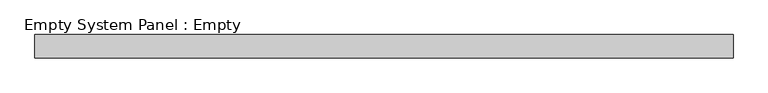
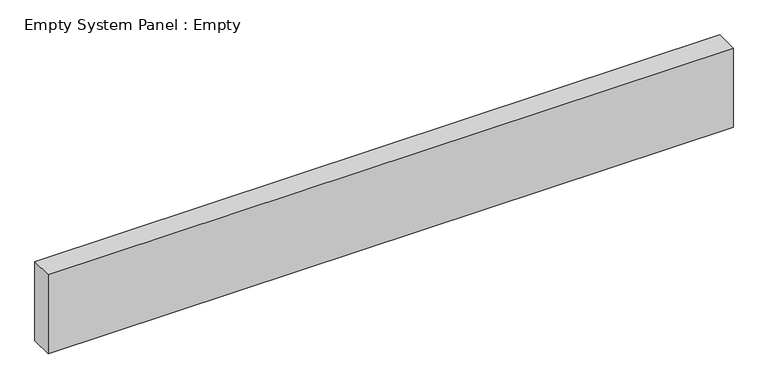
"""IFC4 building model written with IfcOpenShell, lengths in millimetres: plate geometry, Empty System Panel : Empty."""

from ifc_helpers import new_model, si_unit, origin, origin_with_axes, place, context, project, spatial, polyline, outline, extrude, source, transform, mapped, element, save


def empty_system_panel_empty_12cb41e9(model_context):
    return source(origin(), model_context, "Body", "SweptSolid", [
        extrude(outline(polyline([(1500.0, -50.0), (-1500.0, -50.0), (-1500.0, 50.0), (1500.0, 50.0), (1500.0, -50.0)])), origin_with_axes(), (0.0, 0.0, 1.0), 366.0588745),
    ])


if __name__ == "__main__":
    model = new_model("IFC4")
    model_context = context("Model", 3, world=origin())
    ifc_project = project(units=[si_unit("LENGTHUNIT", "METRE", prefix="MILLI")], contexts=[model_context])
    site = spatial("IfcSite", under=ifc_project)
    building = spatial("IfcBuilding", under=site)
    placement = place(None, origin())
    empty_system_panel_empty_shape = empty_system_panel_empty_12cb41e9(model_context)
    element("IfcPlate", 1, ObjectType="Empty System Panel : Empty", at=placement, inside=building, context=model_context, shape_type="MappedRepresentation", body=[
        mapped(empty_system_panel_empty_shape, transform((0.0, 0.0, 0.0), x_axis=(1.0, 0.0, 0.0), y_axis=(0.0, 1.0, 0.0), z_axis=(0.0, 0.0, 1.0))),
    ])
    save(model, "model.ifc")
